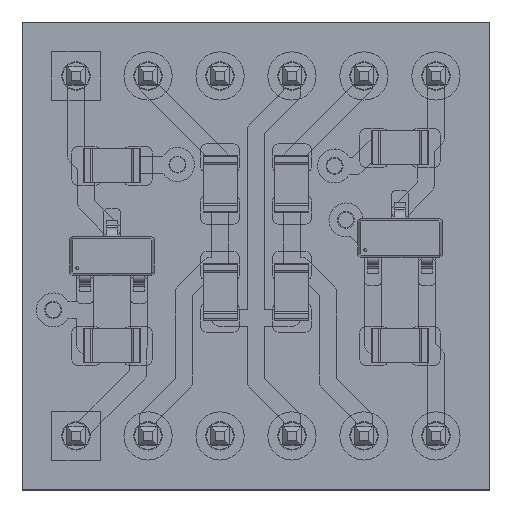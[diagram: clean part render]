
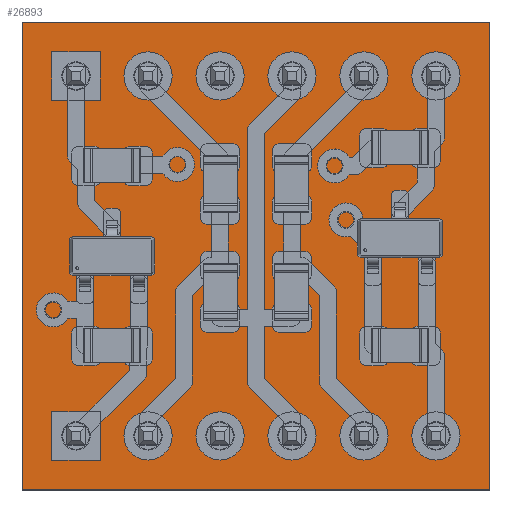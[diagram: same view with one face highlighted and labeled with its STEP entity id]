
A CAD part, top view. The second image highlights one B-rep face of the part: STEP entity #26893.
In plain terms, the highlighted planar face has unit normal (0, 0, 1).
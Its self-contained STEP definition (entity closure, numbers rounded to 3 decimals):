
#26649 = VERTEX_POINT('',#26650);
#26650 = CARTESIAN_POINT('',(-74.116,56.336,1.51));
#26656 = EDGE_CURVE('',#26649,#26657,#26659,.T.);
#26657 = VERTEX_POINT('',#26658);
#26658 = CARTESIAN_POINT('',(-90.626,56.336,1.51));
#26659 = LINE('',#26660,#26661);
#26660 = CARTESIAN_POINT('',(-74.116,56.336,1.51));
#26661 = VECTOR('',#26662,1.);
#26662 = DIRECTION('',(-1.,0.,0.));
#26689 = VERTEX_POINT('',#26690);
#26690 = CARTESIAN_POINT('',(-74.116,72.846,1.51));
#26696 = EDGE_CURVE('',#26689,#26649,#26697,.T.);
#26697 = LINE('',#26698,#26699);
#26698 = CARTESIAN_POINT('',(-74.116,72.846,1.51));
#26699 = VECTOR('',#26700,1.);
#26700 = DIRECTION('',(0.,-1.,0.));
#26718 = EDGE_CURVE('',#26657,#26719,#26721,.T.);
#26719 = VERTEX_POINT('',#26720);
#26720 = CARTESIAN_POINT('',(-90.626,72.846,1.51));
#26721 = LINE('',#26722,#26723);
#26722 = CARTESIAN_POINT('',(-90.626,56.336,1.51));
#26723 = VECTOR('',#26724,1.);
#26724 = DIRECTION('',(0.,1.,0.));
#26893 = ADVANCED_FACE('',(#26894,#26905,#26916,#26927,#26938,#26949,
    #26960,#26971,#26982,#26993,#27004,#27015,#27026),#27037,.T.);
#26894 = FACE_BOUND('',#26895,.T.);
#26895 = EDGE_LOOP('',(#26896,#26897,#26898,#26904));
#26896 = ORIENTED_EDGE('',*,*,#26656,.F.);
#26897 = ORIENTED_EDGE('',*,*,#26696,.F.);
#26898 = ORIENTED_EDGE('',*,*,#26899,.F.);
#26899 = EDGE_CURVE('',#26719,#26689,#26900,.T.);
#26900 = LINE('',#26901,#26902);
#26901 = CARTESIAN_POINT('',(-90.626,72.846,1.51));
#26902 = VECTOR('',#26903,1.);
#26903 = DIRECTION('',(1.,0.,0.));
#26904 = ORIENTED_EDGE('',*,*,#26718,.F.);
#26905 = FACE_BOUND('',#26906,.T.);
#26906 = EDGE_LOOP('',(#26907));
#26907 = ORIENTED_EDGE('',*,*,#26908,.T.);
#26908 = EDGE_CURVE('',#26909,#26909,#26911,.T.);
#26909 = VERTEX_POINT('',#26910);
#26910 = CARTESIAN_POINT('',(-88.721,57.741,1.51));
#26911 = CIRCLE('',#26912,0.5);
#26912 = AXIS2_PLACEMENT_3D('',#26913,#26914,#26915);
#26913 = CARTESIAN_POINT('',(-88.721,58.241,1.51));
#26914 = DIRECTION('',(-0.,0.,-1.));
#26915 = DIRECTION('',(-0.,-1.,0.));
#26916 = FACE_BOUND('',#26917,.T.);
#26917 = EDGE_LOOP('',(#26918));
#26918 = ORIENTED_EDGE('',*,*,#26919,.T.);
#26919 = EDGE_CURVE('',#26920,#26920,#26922,.T.);
#26920 = VERTEX_POINT('',#26921);
#26921 = CARTESIAN_POINT('',(-86.181,57.741,1.51));
#26922 = CIRCLE('',#26923,0.5);
#26923 = AXIS2_PLACEMENT_3D('',#26924,#26925,#26926);
#26924 = CARTESIAN_POINT('',(-86.181,58.241,1.51));
#26925 = DIRECTION('',(-0.,0.,-1.));
#26926 = DIRECTION('',(-0.,-1.,0.));
#26927 = FACE_BOUND('',#26928,.T.);
#26928 = EDGE_LOOP('',(#26929));
#26929 = ORIENTED_EDGE('',*,*,#26930,.T.);
#26930 = EDGE_CURVE('',#26931,#26931,#26933,.T.);
#26931 = VERTEX_POINT('',#26932);
#26932 = CARTESIAN_POINT('',(-83.641,57.741,1.51));
#26933 = CIRCLE('',#26934,0.5);
#26934 = AXIS2_PLACEMENT_3D('',#26935,#26936,#26937);
#26935 = CARTESIAN_POINT('',(-83.641,58.241,1.51));
#26936 = DIRECTION('',(-0.,0.,-1.));
#26937 = DIRECTION('',(-0.,-1.,0.));
#26938 = FACE_BOUND('',#26939,.T.);
#26939 = EDGE_LOOP('',(#26940));
#26940 = ORIENTED_EDGE('',*,*,#26941,.T.);
#26941 = EDGE_CURVE('',#26942,#26942,#26944,.T.);
#26942 = VERTEX_POINT('',#26943);
#26943 = CARTESIAN_POINT('',(-81.101,57.741,1.51));
#26944 = CIRCLE('',#26945,0.5);
#26945 = AXIS2_PLACEMENT_3D('',#26946,#26947,#26948);
#26946 = CARTESIAN_POINT('',(-81.101,58.241,1.51));
#26947 = DIRECTION('',(-0.,0.,-1.));
#26948 = DIRECTION('',(-0.,-1.,0.));
#26949 = FACE_BOUND('',#26950,.T.);
#26950 = EDGE_LOOP('',(#26951));
#26951 = ORIENTED_EDGE('',*,*,#26952,.T.);
#26952 = EDGE_CURVE('',#26953,#26953,#26955,.T.);
#26953 = VERTEX_POINT('',#26954);
#26954 = CARTESIAN_POINT('',(-78.561,57.741,1.51));
#26955 = CIRCLE('',#26956,0.5);
#26956 = AXIS2_PLACEMENT_3D('',#26957,#26958,#26959);
#26957 = CARTESIAN_POINT('',(-78.561,58.241,1.51));
#26958 = DIRECTION('',(-0.,0.,-1.));
#26959 = DIRECTION('',(-0.,-1.,0.));
#26960 = FACE_BOUND('',#26961,.T.);
#26961 = EDGE_LOOP('',(#26962));
#26962 = ORIENTED_EDGE('',*,*,#26963,.T.);
#26963 = EDGE_CURVE('',#26964,#26964,#26966,.T.);
#26964 = VERTEX_POINT('',#26965);
#26965 = CARTESIAN_POINT('',(-76.021,57.741,1.51));
#26966 = CIRCLE('',#26967,0.5);
#26967 = AXIS2_PLACEMENT_3D('',#26968,#26969,#26970);
#26968 = CARTESIAN_POINT('',(-76.021,58.241,1.51));
#26969 = DIRECTION('',(-0.,0.,-1.));
#26970 = DIRECTION('',(-0.,-1.,0.));
#26971 = FACE_BOUND('',#26972,.T.);
#26972 = EDGE_LOOP('',(#26973));
#26973 = ORIENTED_EDGE('',*,*,#26974,.T.);
#26974 = EDGE_CURVE('',#26975,#26975,#26977,.T.);
#26975 = VERTEX_POINT('',#26976);
#26976 = CARTESIAN_POINT('',(-88.721,70.441,1.51));
#26977 = CIRCLE('',#26978,0.5);
#26978 = AXIS2_PLACEMENT_3D('',#26979,#26980,#26981);
#26979 = CARTESIAN_POINT('',(-88.721,70.941,1.51));
#26980 = DIRECTION('',(-0.,0.,-1.));
#26981 = DIRECTION('',(-0.,-1.,0.));
#26982 = FACE_BOUND('',#26983,.T.);
#26983 = EDGE_LOOP('',(#26984));
#26984 = ORIENTED_EDGE('',*,*,#26985,.T.);
#26985 = EDGE_CURVE('',#26986,#26986,#26988,.T.);
#26986 = VERTEX_POINT('',#26987);
#26987 = CARTESIAN_POINT('',(-86.181,70.441,1.51));
#26988 = CIRCLE('',#26989,0.5);
#26989 = AXIS2_PLACEMENT_3D('',#26990,#26991,#26992);
#26990 = CARTESIAN_POINT('',(-86.181,70.941,1.51));
#26991 = DIRECTION('',(-0.,0.,-1.));
#26992 = DIRECTION('',(-0.,-1.,0.));
#26993 = FACE_BOUND('',#26994,.T.);
#26994 = EDGE_LOOP('',(#26995));
#26995 = ORIENTED_EDGE('',*,*,#26996,.T.);
#26996 = EDGE_CURVE('',#26997,#26997,#26999,.T.);
#26997 = VERTEX_POINT('',#26998);
#26998 = CARTESIAN_POINT('',(-83.641,70.441,1.51));
#26999 = CIRCLE('',#27000,0.5);
#27000 = AXIS2_PLACEMENT_3D('',#27001,#27002,#27003);
#27001 = CARTESIAN_POINT('',(-83.641,70.941,1.51));
#27002 = DIRECTION('',(-0.,0.,-1.));
#27003 = DIRECTION('',(-0.,-1.,0.));
#27004 = FACE_BOUND('',#27005,.T.);
#27005 = EDGE_LOOP('',(#27006));
#27006 = ORIENTED_EDGE('',*,*,#27007,.T.);
#27007 = EDGE_CURVE('',#27008,#27008,#27010,.T.);
#27008 = VERTEX_POINT('',#27009);
#27009 = CARTESIAN_POINT('',(-81.101,70.441,1.51));
#27010 = CIRCLE('',#27011,0.5);
#27011 = AXIS2_PLACEMENT_3D('',#27012,#27013,#27014);
#27012 = CARTESIAN_POINT('',(-81.101,70.941,1.51));
#27013 = DIRECTION('',(-0.,0.,-1.));
#27014 = DIRECTION('',(-0.,-1.,0.));
#27015 = FACE_BOUND('',#27016,.T.);
#27016 = EDGE_LOOP('',(#27017));
#27017 = ORIENTED_EDGE('',*,*,#27018,.T.);
#27018 = EDGE_CURVE('',#27019,#27019,#27021,.T.);
#27019 = VERTEX_POINT('',#27020);
#27020 = CARTESIAN_POINT('',(-78.561,70.441,1.51));
#27021 = CIRCLE('',#27022,0.5);
#27022 = AXIS2_PLACEMENT_3D('',#27023,#27024,#27025);
#27023 = CARTESIAN_POINT('',(-78.561,70.941,1.51));
#27024 = DIRECTION('',(-0.,0.,-1.));
#27025 = DIRECTION('',(-0.,-1.,0.));
#27026 = FACE_BOUND('',#27027,.T.);
#27027 = EDGE_LOOP('',(#27028));
#27028 = ORIENTED_EDGE('',*,*,#27029,.T.);
#27029 = EDGE_CURVE('',#27030,#27030,#27032,.T.);
#27030 = VERTEX_POINT('',#27031);
#27031 = CARTESIAN_POINT('',(-76.021,70.441,1.51));
#27032 = CIRCLE('',#27033,0.5);
#27033 = AXIS2_PLACEMENT_3D('',#27034,#27035,#27036);
#27034 = CARTESIAN_POINT('',(-76.021,70.941,1.51));
#27035 = DIRECTION('',(-0.,0.,-1.));
#27036 = DIRECTION('',(-0.,-1.,0.));
#27037 = PLANE('',#27038);
#27038 = AXIS2_PLACEMENT_3D('',#27039,#27040,#27041);
#27039 = CARTESIAN_POINT('',(0.,0.,1.51));
#27040 = DIRECTION('',(0.,0.,1.));
#27041 = DIRECTION('',(1.,0.,-0.));
